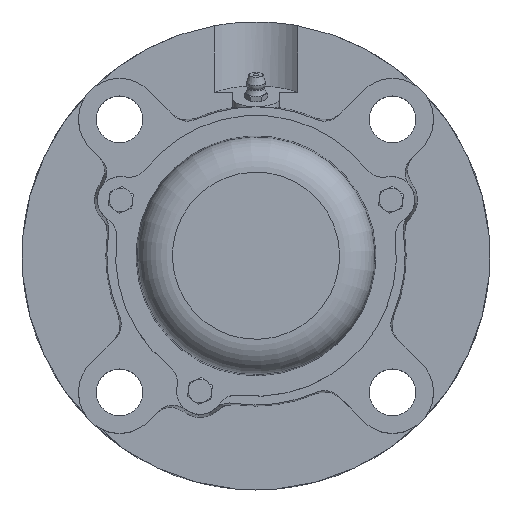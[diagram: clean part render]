
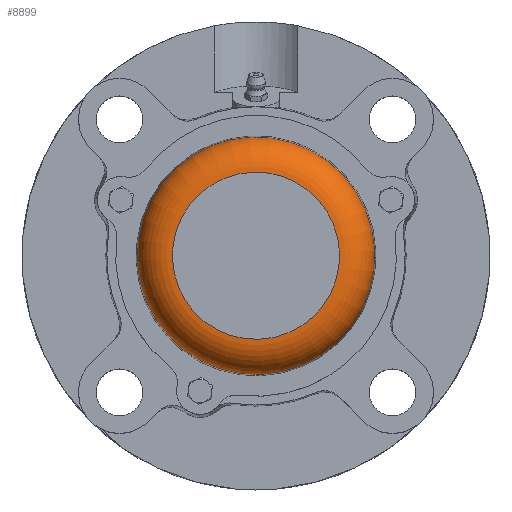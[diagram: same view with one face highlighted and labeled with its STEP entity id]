
A CAD part, top view. The second image highlights one B-rep face of the part: STEP entity #8899.
In plain terms, the highlighted toroidal (fillet/blend) face has major radius 28.585 mm and minor radius 12 mm.
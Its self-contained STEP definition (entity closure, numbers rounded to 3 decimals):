
#8872=CARTESIAN_POINT('',(0.0,0.0,14.));
#8873=DIRECTION('',(0.0,0.0,-1.0));
#8874=DIRECTION('',(-1.0,0.0,0.0));
#8875=AXIS2_PLACEMENT_3D('',#8872,#8873,#8874);
#8876=TOROIDAL_SURFACE('',#8875,28.585,12.);
#8877=CARTESIAN_POINT('',(-28.585,0.0,26.0));
#8878=VERTEX_POINT('',#8877);
#8879=CARTESIAN_POINT('',(0.0,0.0,26.0));
#8880=DIRECTION('',(0.0,0.0,-1.0));
#8881=DIRECTION('',(1.0,0.0,0.0));
#8882=AXIS2_PLACEMENT_3D('',#8879,#8880,#8881);
#8883=CIRCLE('',#8882,28.585);
#8884=EDGE_CURVE('',#8878,#8878,#8883,.T.);
#8885=ORIENTED_EDGE('',*,*,#8884,.T.);
#8886=EDGE_LOOP('',(#8885));
#8887=FACE_OUTER_BOUND('',#8886,.T.);
#8888=CARTESIAN_POINT('',(-40.57,0.,14.599));
#8889=VERTEX_POINT('',#8888);
#8890=CARTESIAN_POINT('',(0.0,0.0,14.599));
#8891=DIRECTION('',(0.0,0.0,1.0));
#8892=DIRECTION('',(1.0,0.0,0.0));
#8893=AXIS2_PLACEMENT_3D('',#8890,#8891,#8892);
#8894=CIRCLE('',#8893,40.57);
#8895=EDGE_CURVE('',#8889,#8889,#8894,.T.);
#8896=ORIENTED_EDGE('',*,*,#8895,.T.);
#8897=EDGE_LOOP('',(#8896));
#8898=FACE_BOUND('',#8897,.T.);
#8899=ADVANCED_FACE('',(#8887,#8898),#8876,.T.);
